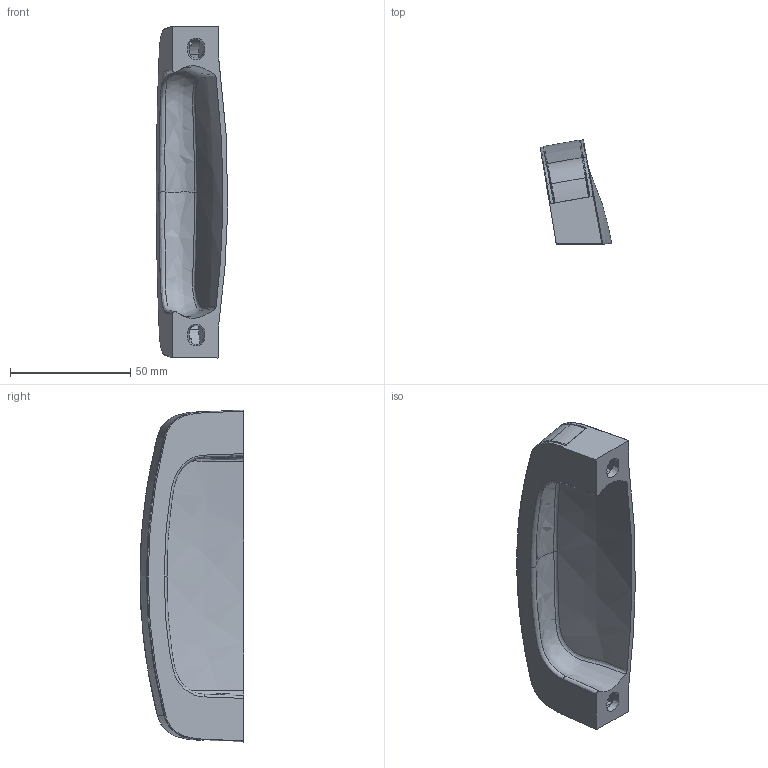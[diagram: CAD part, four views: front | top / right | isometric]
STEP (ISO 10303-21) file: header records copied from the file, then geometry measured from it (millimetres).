
FILE_DESCRIPTION (( 'STEP AP203' ), '1' );
FILE_NAME ('013.506.008.STEP', '2021-03-24T07:46:06', ( '' ), ( '' ), 'SwSTEP 2.0', 'SolidWorks 2018', '' );
FILE_SCHEMA (( 'CONFIG_CONTROL_DESIGN' ));
Length unit declared in the file: millimetre
Products named in the file (3): 013.506.010A; 013.506.008
Assembly tree (2 placements, depth 2):
  013.506.008
    013.506.008
    013.506.010A
Bounding box: 29.7 x 43.19 x 138 mm (x, y, z)
Volume: 32931.1 mm3; surface area: 28667 mm2
Topology: 2 solids, 2 shells, 252 faces, 681 edges, 439 vertices
Faces by surface type: bspline 90, plane 88, cylinder 46, cone 26, torus 2
Entity records: 25887 total; most frequent: CARTESIAN_POINT 20274, ORIENTED_EDGE 1362, DIRECTION 758, EDGE_CURVE 681, VERTEX_POINT 439, VECTOR 278, LINE 278, EDGE_LOOP 262
